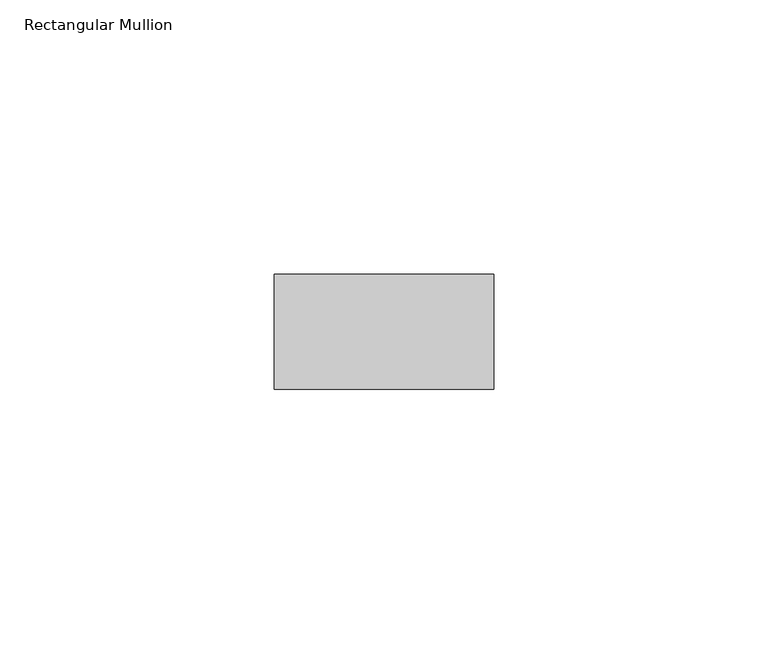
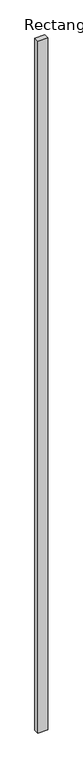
"""IFC4 building model written with IfcOpenShell, lengths in millimetres: member geometry, Rectangular Mullion : RSen_21_CWM_support profile - 40x21_gen_duco projects."""

from ifc_helpers import new_model, si_unit, frame, origin, place, context, project, spatial, polyline, outline, extrude, source, transform, mapped, element, save


def rectangular_mullion_a4a4ad38(model_context):
    return source(origin(), model_context, "Body", "SweptSolid", [
        extrude(outline(polyline([(20.0, 1.0), (20.0, -20.0), (-20.0, -20.0), (-20.0, 1.0), (20.0, 1.0)])), frame((0.0, 0.0, -3000.0), z_axis=(0.0, 0.0, 1.0), x_axis=(1.0, 0.0, 0.0)), (0.0, 0.0, 1.0), 3000.0),
    ])


if __name__ == "__main__":
    model = new_model("IFC4")
    model_context = context("Model", 3, world=origin())
    ifc_project = project(units=[si_unit("LENGTHUNIT", "METRE", prefix="MILLI")], contexts=[model_context])
    site = spatial("IfcSite", under=ifc_project)
    building = spatial("IfcBuilding", under=site)
    placement = place(None, origin())
    rectangular_mullion_shape = rectangular_mullion_a4a4ad38(model_context)
    element("IfcMember", 1, ObjectType="Rectangular Mullion : RSen_21_CWM_support profile - 40x21_gen_duco projects", at=placement, inside=building, context=model_context, shape_type="MappedRepresentation", body=[
        mapped(rectangular_mullion_shape, transform((0.0, 0.0, 0.0), x_axis=(1.0, 0.0, 0.0), y_axis=(0.0, 1.0, 0.0), z_axis=(0.0, 0.0, 1.0))),
    ])
    save(model, "model.ifc")
